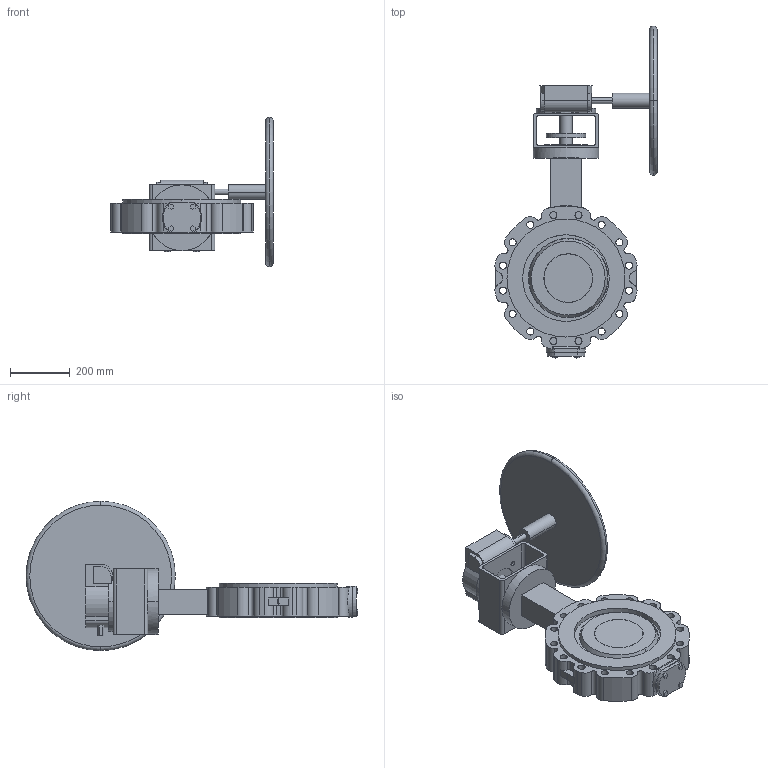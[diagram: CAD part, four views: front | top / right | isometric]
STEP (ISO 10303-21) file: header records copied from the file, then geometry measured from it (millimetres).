
FILE_DESCRIPTION( ( '' ), '1' );
FILE_NAME( 'F:/DE-SHS/TB/OR/04-Sonstiges/daten/Excel/mneugeba/018_ZETRIX-PN25_Getriebe-Rotork/c000006445.stp', '2016-09-19T06:34:53', ( '' ), ( '' ), ' ', ' ', ' ' );
FILE_SCHEMA( ( 'CONFIG_CONTROL_DESIGN' ) );
Length unit declared in the file: millimetre
Products named in the file (2): 1; 2
Bounding box: 542.85 x 1111.4 x 500 mm (x, y, z)
Volume: 26829418.1 mm3; surface area: 1790914.3 mm2
Topology: 2 solids, 2 shells, 352 faces, 939 edges, 625 vertices
Faces by surface type: cylinder 185, plane 155, sphere 4, cone 4, torus 4
Entity records: 12032 total; most frequent: CARTESIAN_POINT 2691, DIRECTION 2044, ORIENTED_EDGE 1878, EDGE_CURVE 939, AXIS2_PLACEMENT_3D 780, VERTEX_POINT 625, LINE 484, VECTOR 484
